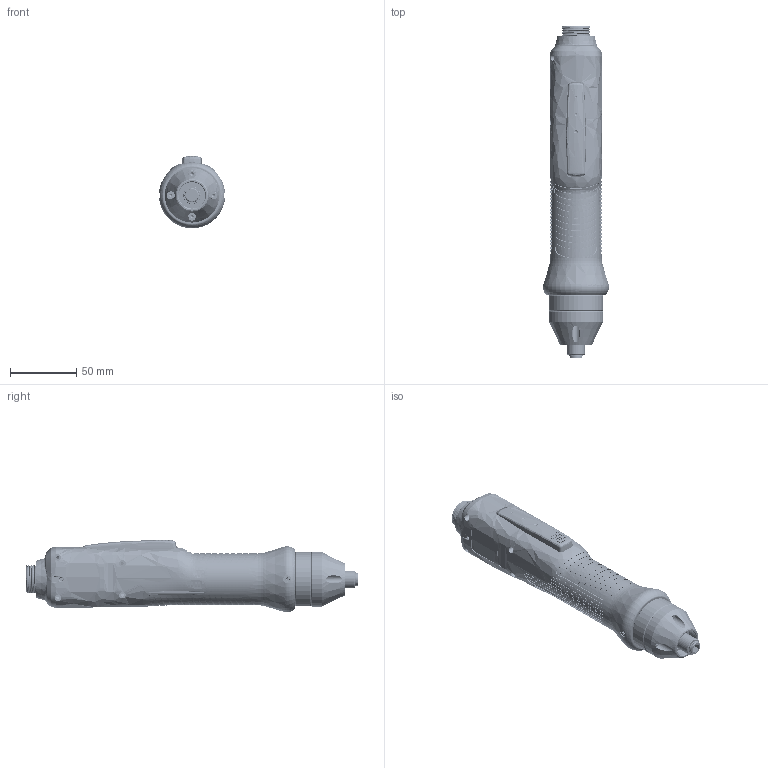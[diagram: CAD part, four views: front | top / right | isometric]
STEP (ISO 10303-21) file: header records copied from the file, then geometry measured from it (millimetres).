
FILE_DESCRIPTION((''),'2;1');
FILE_NAME('MD3201_3202_ASM','2017-07-05T',('hantas-design'),(''),'CREO PARAMETRIC BY PTC INC, 2014350','CREO PARAMETRIC BY PTC INC, 2014350','');
FILE_SCHEMA(('CONFIG_CONTROL_DESIGN'));
Length unit declared in the file: millimetre
Products named in the file (105): LED; SENSOR_1; MD32-PCB; MD32-PCB_ASM_ASM; MD32-LEVER; 1_5-PIN-FEMALE_3_1; 14P-INSULATOR-CONNECTOR_11_1; 14P-N-HOUSING_2_2; 2-PIN-FEMALE_1_1; 14P-INSULATOR-COVER_8_1; INSULATOR-ASSY_ASM_4_ASM_3_ASM_ASM; 14P-N-CONNECTOR_ASM_2_ASM_ASM; 14P-N-CONNECTOR_ASM_ASM_ASM; SINK_HEAD_KS_1023_FC-_M3_X_8-S; FR-SWITCH-COVER_6_1; FR-SWITCH-COVER-LABEL_1_1; FR-SWITCH-COVER_ASM_1_ASM_1_ASM_ASM; FR-SWITCH-COVER_ASM_ASM_1_ASM_ASM; FR-SWITCH-COVER_ASM_ASM_ASM_ASM; ______1-1164; ______20-18570; ______10-21177; ______6-22360; ______3-37793; ______21-41558; ______5-76740; ______26-79267; ______23-89319; ______24-95557; ______8-100708; ______25-102097; ______14-108252; ______18-117246; ______11-119591; ______27-131012; ______12-132362; ______13-138461; ______16-147283; ______9-149867; ______19-152405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
Assembly tree (127 placements, depth 6):
  MD3201_3202_ASM
    MD3201_ASM_ASM
      MD32-PCB_ASM_ASM
        LED
        SENSOR_1  x2
        MD32-PCB
      MD32-LEVER
      14P-N-CONNECTOR_ASM_ASM_ASM
        14P-N-CONNECTOR_ASM_2_ASM_ASM
          INSULATOR-ASSY_ASM_4_ASM_3_ASM_ASM
            1_5-PIN-FEMALE_3_1  x11
            14P-INSULATOR-CONNECTOR_11_1
            14P-N-HOUSING_2_2
            2-PIN-FEMALE_1_1  x3
            14P-INSULATOR-COVER_8_1
      SINK_HEAD_KS_1023_FC-_M3_X_8-S  x2
      FR-SWITCH-COVER_ASM_ASM_ASM_ASM
        FR-SWITCH-COVER_ASM_ASM_1_ASM_ASM
          FR-SWITCH-COVER_ASM_1_ASM_1_ASM_ASM
            FR-SWITCH-COVER_6_1
            FR-SWITCH-COVER-LABEL_1_1
      MD32-SHORT-LOWER-HOUSING_ASM
        ______1-1164
        ______20-18570
        ______10-21177
        ______6-22360
        ______3-37793
        ______21-41558
        ______5-76740
        ______26-79267
        ______23-89319
        ______24-95557
        ______8-100708
        ______25-102097
        ______14-108252
        ______18-117246
        ______11-119591
        ______27-131012
        ______12-132362
        ______13-138461
        ______16-147283
        ______9-149867
        ______19-152405
        ______17-153832
        ______4-169017
        ______22-173897
        ______7-177629
        ______15-182795
        ______2-192790
      BEARING-COVER-ASSY-MD3201_ASM_A_ASM
        BEARING-COVER-ASSY-MD3201_ASM_2_ASM
          32-BEARING-CASE_5
          BEARING-HOUSING-MD3201_2
          WRENCH_KS_1003_-_M3_X_16_X_16_1  x8
          COUPLING-MD3201_1
          BITSOCKET-A-MD3202_ASM_1_ASM_ASM
            BALL-2_1  x2
            KS_1336_E_-_10_1
            BEARING_SPACER_ANY_1
            MD2616-BIT_SOCKET-RING_1
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Bounding box: 49.44 x 249.65 x 54.8 mm (x, y, z)
Volume: 149326.6 mm3; surface area: 113906.5 mm2
Topology: 110 solids, 110 shells, 6934 faces, 17327 edges, 11058 vertices
Faces by surface type: plane 3353, cylinder 1790, cone 1234, bspline 395, torus 107, extrusion 33, sphere 22
Entity records: 179096 total; most frequent: CARTESIAN_POINT 60251, ORIENTED_EDGE 25466, DIRECTION 22248, EDGE_CURVE 12733, VERTEX_POINT 8436, AXIS2_PLACEMENT_3D 7672, VECTOR 6904, LINE 6871
